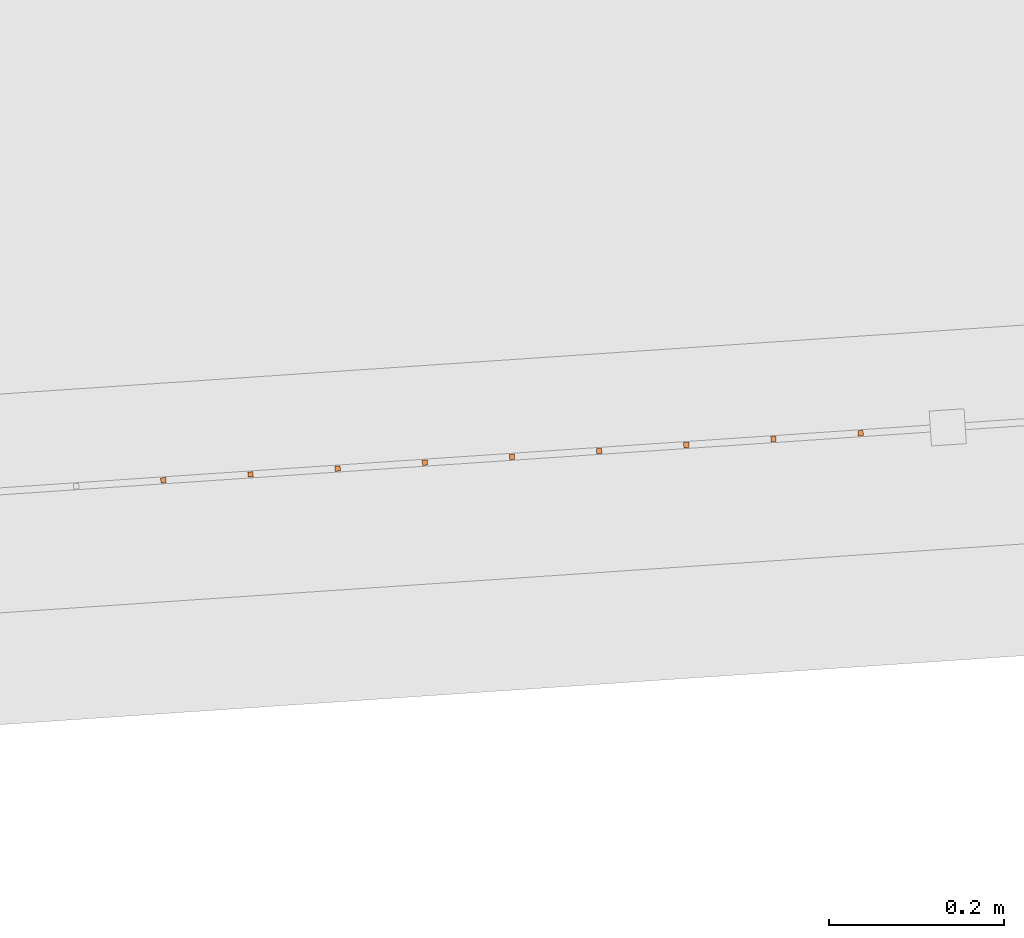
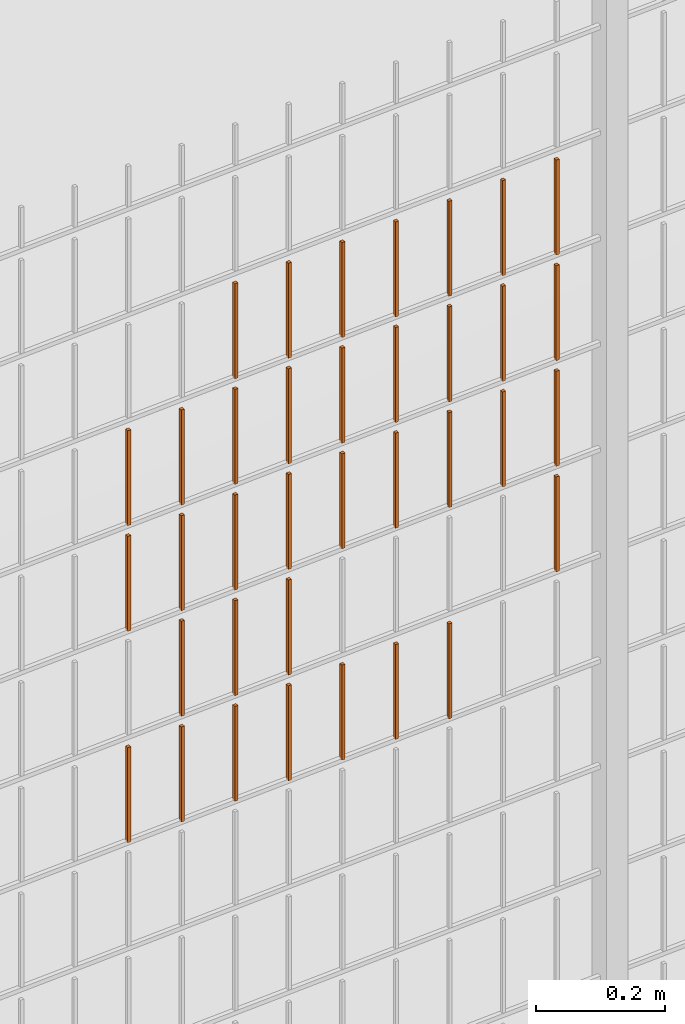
# One storey, part 194 of 1809: 36 proxies, 1 element without a shape of its own.
"""IFC2X3 building model written with IfcOpenShell, lengths in millimetres."""

from ifc_helpers import new_model, entity, si_unit, converted_unit, derived_unit, money_unit, direction, frame, origin_with_axes, place, context, subcontext, project, spatial, faceted_brep, source, transform, mapped, material, type_object, element, aggregate, save


model = new_model("IFC2X3")

# Units and contexts
model_context = context("Model", 3, precision=0.01, world=origin_with_axes(), true_north=direction((0.0, 1.0)))
body_context = subcontext(model_context, "Body", "Model", "MODEL_VIEW")
ifc_project = project(units=[si_unit("LENGTHUNIT", "METRE", prefix="MILLI"), si_unit("AREAUNIT", "SQUARE_METRE"), si_unit("VOLUMEUNIT", "CUBIC_METRE"), converted_unit("PLANEANGLEUNIT", "DEGREE", entity("IfcPlaneAngleMeasure", 0.0174532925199), si_unit("PLANEANGLEUNIT", "RADIAN"), dimensions=[0, 0, 0, 0, 0, 0, 0]), si_unit("SOLIDANGLEUNIT", "STERADIAN"), money_unit("EUR"), converted_unit("TIMEUNIT", "Year", entity("IfcTimeMeasure", 31556926.0), si_unit("TIMEUNIT", "SECOND"), dimensions=[0, 0, 1, 0, 0, 0, 0]), si_unit("MASSUNIT", "GRAM", prefix="KILO"), si_unit("THERMODYNAMICTEMPERATUREUNIT", "DEGREE_CELSIUS"), si_unit("LUMINOUSINTENSITYUNIT", "LUMEN"), si_unit("ENERGYUNIT", "JOULE", prefix="MEGA"), derived_unit("THERMALCONDUCTANCEUNIT", [(si_unit("POWERUNIT", "WATT"), 1), (si_unit("LENGTHUNIT", "METRE"), -1), (si_unit("THERMODYNAMICTEMPERATUREUNIT", "KELVIN"), -1)]), derived_unit("SPECIFICHEATCAPACITYUNIT", [(si_unit("ENERGYUNIT", "JOULE"), 1), (si_unit("MASSUNIT", "GRAM", prefix="KILO"), -1), (si_unit("THERMODYNAMICTEMPERATUREUNIT", "KELVIN"), -1)]), derived_unit("MASSDENSITYUNIT", [(si_unit("MASSUNIT", "GRAM", prefix="KILO"), 1), (si_unit("VOLUMEUNIT", "CUBIC_METRE"), -1)])], contexts=[model_context])

# Site, building, storey
site_placement = place(None, origin_with_axes())
site = spatial("IfcSite", under=ifc_project, at=site_placement, Name="Politse- ja Piirivalveameti ning Päästeameti ühishoone", CompositionType="ELEMENT")
building_placement = place(site_placement, origin_with_axes())
building = spatial("IfcBuilding", under=site, at=building_placement, Name="Politse- ja Piirivalveameti ning Päästeameti ühishoone", CompositionType="ELEMENT")
storey_placement = place(building_placement, origin_with_axes())
storey = spatial("IfcBuildingStorey", under=building, at=storey_placement, Name="Esimene korrus", CompositionType="ELEMENT", Elevation=0.0)

# Proxies
building_element_proxy_type_1 = type_object("IfcBuildingElementProxyType", Name="Railing Type", PredefinedType="NOTDEFINED")
proxy_1_placement = place(storey_placement, frame((89252.001212, -29183.4766571, 203.661247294), z_axis=(0.0, 0.0, 1.0), x_axis=(1.0, 0.0, 0.0)))
proxy_1 = element("IfcBuildingElementProxy", 1, at=proxy_1_placement, inside=storey, type_object=building_element_proxy_type_1, Name="PIIRDEAED")
ifc_material = material(Name="ET-03_Raud")
building_element_proxy_type_2 = type_object("IfcBuildingElementProxyType", Name="IfcBuildingElementProxy", PredefinedType="NOTDEFINED")
shared_shape_1 = source(origin_with_axes(), body_context, "Body", "Brep", [
    faceted_brep([(3.0, 3.0, -0.000752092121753), (-3.0, 3.0, -0.000752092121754), (-3.0, 3.0, 179.99926046), (3.0, 3.0, 179.99926046), (3.0, -3.0, 0.000752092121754), (-3.0, -3.0, 0.000752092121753), (-3.0, -3.0, 180.000764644), (3.0, -3.0, 180.000764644)], [[[0, 1, 2, 3]], [[0, 4, 5, 1]], [[1, 5, 6, 2]], [[3, 2, 6, 7]], [[4, 0, 3, 7]], [[5, 4, 7, 6]]]),
])
proxy_2_placement = place(proxy_1_placement, frame((-67373.1680859, -21848.5780086, 1210.30562217), z_axis=(0.0, 0.0, 1.0), x_axis=(1.0, 0.0, 0.0)))
proxy_2 = element("IfcBuildingElementProxy", 2, at=proxy_2_placement, type_object=building_element_proxy_type_2, material=ifc_material, Name="BALUSTER - 001", context=body_context, shape_type="MappedRepresentation", body=[
    mapped(shared_shape_1, transform((0.0, 0.0, 0.0), x_axis=(-0.0673926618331, 0.997726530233, 0.0), y_axis=(-0.997726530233, -0.0673926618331, 0.0), z_axis=(0.0, 0.0, 1.0))),
])
shared_shape_2 = source(origin_with_axes(), body_context, "Body", "Brep", [
    faceted_brep([(3.0, 3.0, -0.000752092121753), (-3.0, 3.0, -0.000752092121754), (-3.0, 3.0, 179.99926046), (3.0, 3.0, 179.99926046), (3.0, -3.0, 0.000752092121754), (-3.0, -3.0, 0.000752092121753), (-3.0, -3.0, 180.000764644), (3.0, -3.0, 180.000764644)], [[[0, 1, 2, 3]], [[0, 4, 5, 1]], [[1, 5, 6, 2]], [[3, 2, 6, 7]], [[4, 0, 3, 7]], [[5, 4, 7, 6]]]),
])
proxy_3_placement = place(proxy_1_placement, frame((-67373.1680859, -21848.5780086, 1410.30562217), z_axis=(0.0, 0.0, 1.0), x_axis=(1.0, 0.0, 0.0)))
proxy_3 = element("IfcBuildingElementProxy", 3, at=proxy_3_placement, type_object=building_element_proxy_type_2, material=ifc_material, Name="BALUSTER - 001", context=body_context, shape_type="MappedRepresentation", body=[
    mapped(shared_shape_2, transform((0.0, 0.0, 0.0), x_axis=(-0.0673926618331, 0.997726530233, 0.0), y_axis=(-0.997726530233, -0.0673926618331, 0.0), z_axis=(0.0, 0.0, 1.0))),
])
proxy_4_placement = place(proxy_1_placement, frame((-67373.1680859, -21848.5780086, 1610.30562217), z_axis=(0.0, 0.0, 1.0), x_axis=(1.0, 0.0, 0.0)))
proxy_4 = element("IfcBuildingElementProxy", 4, at=proxy_4_placement, type_object=building_element_proxy_type_2, material=ifc_material, Name="BALUSTER - 001", context=body_context, shape_type="MappedRepresentation", body=[
    mapped(shared_shape_2, transform((0.0, 0.0, 0.0), x_axis=(-0.0673926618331, 0.997726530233, 0.0), y_axis=(-0.997726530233, -0.0673926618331, 0.0), z_axis=(0.0, 0.0, 1.0))),
])
shared_shape_3 = source(origin_with_axes(), body_context, "Body", "Brep", [
    faceted_brep([(3.0, 3.0, -0.000752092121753), (-3.0, 3.0, -0.000752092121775), (-3.0, 3.0, 179.99926046), (3.0, 3.0, 179.99926046), (3.0, -3.0, 0.000752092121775), (-3.0, -3.0, 0.000752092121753), (-3.0, -3.0, 180.000764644), (3.0, -3.0, 180.000764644)], [[[0, 1, 2, 3]], [[0, 4, 5, 1]], [[1, 5, 6, 2]], [[3, 2, 6, 7]], [[4, 0, 3, 7]], [[5, 4, 7, 6]]]),
])
proxy_5_placement = place(proxy_1_placement, frame((-67472.9407389, -21855.3172748, 810.280552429), z_axis=(0.0, 0.0, 1.0), x_axis=(1.0, 0.0, 0.0)))
proxy_5 = element("IfcBuildingElementProxy", 5, at=proxy_5_placement, type_object=building_element_proxy_type_2, material=ifc_material, Name="BALUSTER - 001", context=body_context, shape_type="MappedRepresentation", body=[
    mapped(shared_shape_3, transform((0.0, 0.0, 0.0), x_axis=(-0.0673926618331, 0.997726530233, 0.0), y_axis=(-0.997726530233, -0.0673926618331, 0.0), z_axis=(0.0, 0.0, 1.0))),
])
shared_shape_4 = source(origin_with_axes(), body_context, "Body", "Brep", [
    faceted_brep([(3.0, 3.0, -0.000752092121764), (-3.0, 3.0, -0.000752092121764), (-3.0, 3.0, 179.99926046), (3.0, 3.0, 179.99926046), (3.0, -3.0, 0.000752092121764), (-3.0, -3.0, 0.000752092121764), (-3.0, -3.0, 180.000764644), (3.0, -3.0, 180.000764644)], [[[0, 1, 2, 3]], [[0, 4, 5, 1]], [[1, 5, 6, 2]], [[3, 2, 6, 7]], [[4, 0, 3, 7]], [[5, 4, 7, 6]]]),
])
proxy_6_placement = place(proxy_1_placement, frame((-67971.8040041, -21889.0136057, 810.155203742), z_axis=(0.0, 0.0, 1.0), x_axis=(1.0, 0.0, 0.0)))
proxy_6 = element("IfcBuildingElementProxy", 6, at=proxy_6_placement, type_object=building_element_proxy_type_2, material=ifc_material, Name="BALUSTER - 001", context=body_context, shape_type="MappedRepresentation", body=[
    mapped(shared_shape_4, transform((0.0, 0.0, 0.0), x_axis=(-0.0673926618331, 0.997726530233, 0.0), y_axis=(-0.997726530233, -0.0673926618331, 0.0), z_axis=(0.0, 0.0, 1.0))),
])
proxy_7_placement = place(proxy_1_placement, frame((-67971.8040041, -21889.0136057, 1210.15520374), z_axis=(0.0, 0.0, 1.0), x_axis=(1.0, 0.0, 0.0)))
proxy_7 = element("IfcBuildingElementProxy", 7, at=proxy_7_placement, type_object=building_element_proxy_type_2, material=ifc_material, Name="BALUSTER - 001", context=body_context, shape_type="MappedRepresentation", body=[
    mapped(shared_shape_4, transform((0.0, 0.0, 0.0), x_axis=(-0.0673926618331, 0.997726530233, 0.0), y_axis=(-0.997726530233, -0.0673926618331, 0.0), z_axis=(0.0, 0.0, 1.0))),
])
shared_shape_5 = source(origin_with_axes(), body_context, "Body", "Brep", [
    faceted_brep([(3.0, 3.0, -0.000752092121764), (-3.0, 3.0, -0.000752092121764), (-3.0, 3.0, 179.99926046), (3.0, 3.0, 179.99926046), (3.0, -3.0, 0.000752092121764), (-3.0, -3.0, 0.000752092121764), (-3.0, -3.0, 180.000764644), (3.0, -3.0, 180.000764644)], [[[0, 1, 2, 3]], [[0, 4, 5, 1]], [[1, 5, 6, 2]], [[3, 2, 6, 7]], [[4, 0, 3, 7]], [[5, 4, 7, 6]]]),
])
proxy_8_placement = place(proxy_1_placement, frame((-67971.8040041, -21889.0136057, 1410.15520374), z_axis=(0.0, 0.0, 1.0), x_axis=(1.0, 0.0, 0.0)))
proxy_8 = element("IfcBuildingElementProxy", 8, at=proxy_8_placement, type_object=building_element_proxy_type_2, material=ifc_material, Name="BALUSTER - 001", context=body_context, shape_type="MappedRepresentation", body=[
    mapped(shared_shape_5, transform((0.0, 0.0, 0.0), x_axis=(-0.0673926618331, 0.997726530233, 0.0), y_axis=(-0.997726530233, -0.0673926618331, 0.0), z_axis=(0.0, 0.0, 1.0))),
])
shared_shape_6 = source(origin_with_axes(), body_context, "Body", "Brep", [
    faceted_brep([(3.0, 3.0, -0.000752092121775), (-3.0, 3.0, -0.000752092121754), (-3.0, 3.0, 179.99926046), (3.0, 3.0, 179.99926046), (3.0, -3.0, 0.000752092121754), (-3.0, -3.0, 0.000752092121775), (-3.0, -3.0, 180.000764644), (3.0, -3.0, 180.000764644)], [[[0, 1, 2, 3]], [[0, 4, 5, 1]], [[1, 5, 6, 2]], [[3, 2, 6, 7]], [[4, 0, 3, 7]], [[5, 4, 7, 6]]]),
])
proxy_9_placement = place(proxy_1_placement, frame((-67572.713392, -21862.056541, 1210.25548269), z_axis=(0.0, 0.0, 1.0), x_axis=(1.0, 0.0, 0.0)))
proxy_9 = element("IfcBuildingElementProxy", 9, at=proxy_9_placement, type_object=building_element_proxy_type_2, material=ifc_material, Name="BALUSTER - 001", context=body_context, shape_type="MappedRepresentation", body=[
    mapped(shared_shape_6, transform((0.0, 0.0, 0.0), x_axis=(-0.0673926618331, 0.997726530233, 0.0), y_axis=(-0.997726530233, -0.0673926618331, 0.0), z_axis=(0.0, 0.0, 1.0))),
])
shared_shape_7 = source(origin_with_axes(), body_context, "Body", "Brep", [
    faceted_brep([(3.0, 3.0, -0.000752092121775), (-3.0, 3.0, -0.000752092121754), (-3.0, 3.0, 179.99926046), (3.0, 3.0, 179.99926046), (3.0, -3.0, 0.000752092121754), (-3.0, -3.0, 0.000752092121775), (-3.0, -3.0, 180.000764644), (3.0, -3.0, 180.000764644)], [[[0, 1, 2, 3]], [[0, 4, 5, 1]], [[1, 5, 6, 2]], [[3, 2, 6, 7]], [[4, 0, 3, 7]], [[5, 4, 7, 6]]]),
])
proxy_10_placement = place(proxy_1_placement, frame((-67572.713392, -21862.056541, 1410.25548269), z_axis=(0.0, 0.0, 1.0), x_axis=(1.0, 0.0, 0.0)))
proxy_10 = element("IfcBuildingElementProxy", 10, at=proxy_10_placement, type_object=building_element_proxy_type_2, material=ifc_material, Name="BALUSTER - 001", context=body_context, shape_type="MappedRepresentation", body=[
    mapped(shared_shape_7, transform((0.0, 0.0, 0.0), x_axis=(-0.0673926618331, 0.997726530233, 0.0), y_axis=(-0.997726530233, -0.0673926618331, 0.0), z_axis=(0.0, 0.0, 1.0))),
])
proxy_11_placement = place(proxy_1_placement, frame((-67572.713392, -21862.056541, 1610.25548269), z_axis=(0.0, 0.0, 1.0), x_axis=(1.0, 0.0, 0.0)))
proxy_11 = element("IfcBuildingElementProxy", 11, at=proxy_11_placement, type_object=building_element_proxy_type_2, material=ifc_material, Name="BALUSTER - 001", context=body_context, shape_type="MappedRepresentation", body=[
    mapped(shared_shape_7, transform((0.0, 0.0, 0.0), x_axis=(-0.0673926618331, 0.997726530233, 0.0), y_axis=(-0.997726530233, -0.0673926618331, 0.0), z_axis=(0.0, 0.0, 1.0))),
])
shared_shape_8 = source(origin_with_axes(), body_context, "Body", "Brep", [
    faceted_brep([(3.0, 3.0, -0.000752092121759), (-3.0, 3.0, -0.000752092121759), (-3.0, 3.0, 179.99926046), (3.0, 3.0, 179.99926046), (3.0, -3.0, 0.000752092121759), (-3.0, -3.0, 0.000752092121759), (-3.0, -3.0, 180.000764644), (3.0, -3.0, 180.000764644)], [[[0, 1, 2, 3]], [[0, 4, 5, 1]], [[1, 5, 6, 2]], [[3, 2, 6, 7]], [[4, 0, 3, 7]], [[5, 4, 7, 6]]]),
])
proxy_12_placement = place(proxy_1_placement, frame((-67273.3954329, -21841.8387425, 1210.3306919), z_axis=(0.0, 0.0, 1.0), x_axis=(1.0, 0.0, 0.0)))
proxy_12 = element("IfcBuildingElementProxy", 12, at=proxy_12_placement, type_object=building_element_proxy_type_2, material=ifc_material, Name="BALUSTER - 001", context=body_context, shape_type="MappedRepresentation", body=[
    mapped(shared_shape_8, transform((0.0, 0.0, 0.0), x_axis=(-0.0673926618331, 0.997726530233, 0.0), y_axis=(-0.997726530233, -0.0673926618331, 0.0), z_axis=(0.0, 0.0, 1.0))),
])
shared_shape_9 = source(origin_with_axes(), body_context, "Body", "Brep", [
    faceted_brep([(3.0, 3.0, -0.000752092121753), (-3.0, 3.0, -0.000752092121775), (-3.0, 3.0, 179.99926046), (3.0, 3.0, 179.99926046), (3.0, -3.0, 0.000752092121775), (-3.0, -3.0, 0.000752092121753), (-3.0, -3.0, 180.000764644), (3.0, -3.0, 180.000764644)], [[[0, 1, 2, 3]], [[0, 4, 5, 1]], [[1, 5, 6, 2]], [[3, 2, 6, 7]], [[4, 0, 3, 7]], [[5, 4, 7, 6]]]),
])
proxy_13_placement = place(proxy_1_placement, frame((-67672.486045, -21868.7958072, 810.230412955), z_axis=(0.0, 0.0, 1.0), x_axis=(1.0, 0.0, 0.0)))
proxy_13 = element("IfcBuildingElementProxy", 13, at=proxy_13_placement, type_object=building_element_proxy_type_2, material=ifc_material, Name="BALUSTER - 001", context=body_context, shape_type="MappedRepresentation", body=[
    mapped(shared_shape_9, transform((0.0, 0.0, 0.0), x_axis=(-0.0673926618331, 0.997726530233, 0.0), y_axis=(-0.997726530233, -0.0673926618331, 0.0), z_axis=(0.0, 0.0, 1.0))),
])
proxy_14_placement = place(proxy_1_placement, frame((-67672.486045, -21868.7958072, 1210.23041295), z_axis=(0.0, 0.0, 1.0), x_axis=(1.0, 0.0, 0.0)))
proxy_14 = element("IfcBuildingElementProxy", 14, at=proxy_14_placement, type_object=building_element_proxy_type_2, material=ifc_material, Name="BALUSTER - 001", context=body_context, shape_type="MappedRepresentation", body=[
    mapped(shared_shape_9, transform((0.0, 0.0, 0.0), x_axis=(-0.0673926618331, 0.997726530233, 0.0), y_axis=(-0.997726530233, -0.0673926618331, 0.0), z_axis=(0.0, 0.0, 1.0))),
])
shared_shape_10 = source(origin_with_axes(), body_context, "Body", "Brep", [
    faceted_brep([(3.0, 3.0, -0.000752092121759), (-3.0, 3.0, -0.000752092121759), (-3.0, 3.0, 179.99926046), (3.0, 3.0, 179.99926046), (3.0, -3.0, 0.000752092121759), (-3.0, -3.0, 0.000752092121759), (-3.0, -3.0, 180.000764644), (3.0, -3.0, 180.000764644)], [[[0, 1, 2, 3]], [[0, 4, 5, 1]], [[1, 5, 6, 2]], [[3, 2, 6, 7]], [[4, 0, 3, 7]], [[5, 4, 7, 6]]]),
])
proxy_15_placement = place(proxy_1_placement, frame((-67772.258698, -21875.5350734, 810.205343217), z_axis=(0.0, 0.0, 1.0), x_axis=(1.0, 0.0, 0.0)))
proxy_15 = element("IfcBuildingElementProxy", 15, at=proxy_15_placement, type_object=building_element_proxy_type_2, material=ifc_material, Name="BALUSTER - 001", context=body_context, shape_type="MappedRepresentation", body=[
    mapped(shared_shape_10, transform((0.0, 0.0, 0.0), x_axis=(-0.0673926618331, 0.997726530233, 0.0), y_axis=(-0.997726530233, -0.0673926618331, 0.0), z_axis=(0.0, 0.0, 1.0))),
])
shared_shape_11 = source(origin_with_axes(), body_context, "Body", "Brep", [
    faceted_brep([(3.0, 3.0, -0.000752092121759), (-3.0, 3.0, -0.000752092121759), (-3.0, 3.0, 179.99926046), (3.0, 3.0, 179.99926046), (3.0, -3.0, 0.000752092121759), (-3.0, -3.0, 0.000752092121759), (-3.0, -3.0, 180.000764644), (3.0, -3.0, 180.000764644)], [[[0, 1, 2, 3]], [[0, 4, 5, 1]], [[1, 5, 6, 2]], [[3, 2, 6, 7]], [[4, 0, 3, 7]], [[5, 4, 7, 6]]]),
])
proxy_16_placement = place(proxy_1_placement, frame((-67772.258698, -21875.5350734, 1210.20534322), z_axis=(0.0, 0.0, 1.0), x_axis=(1.0, 0.0, 0.0)))
proxy_16 = element("IfcBuildingElementProxy", 16, at=proxy_16_placement, type_object=building_element_proxy_type_2, material=ifc_material, Name="BALUSTER - 001", context=body_context, shape_type="MappedRepresentation", body=[
    mapped(shared_shape_11, transform((0.0, 0.0, 0.0), x_axis=(-0.0673926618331, 0.997726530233, 0.0), y_axis=(-0.997726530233, -0.0673926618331, 0.0), z_axis=(0.0, 0.0, 1.0))),
])
shared_shape_12 = source(origin_with_axes(), body_context, "Body", "Brep", [
    faceted_brep([(3.0, 3.0, -0.000752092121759), (-3.0, 3.0, -0.000752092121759), (-3.0, 3.0, 179.99926046), (3.0, 3.0, 179.99926046), (3.0, -3.0, 0.000752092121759), (-3.0, -3.0, 0.000752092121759), (-3.0, -3.0, 180.000764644), (3.0, -3.0, 180.000764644)], [[[0, 1, 2, 3]], [[0, 4, 5, 1]], [[1, 5, 6, 2]], [[3, 2, 6, 7]], [[4, 0, 3, 7]], [[5, 4, 7, 6]]]),
])
proxy_17_placement = place(proxy_1_placement, frame((-67772.258698, -21875.5350734, 1410.20534322), z_axis=(0.0, 0.0, 1.0), x_axis=(1.0, 0.0, 0.0)))
proxy_17 = element("IfcBuildingElementProxy", 17, at=proxy_17_placement, type_object=building_element_proxy_type_2, material=ifc_material, Name="BALUSTER - 001", context=body_context, shape_type="MappedRepresentation", body=[
    mapped(shared_shape_12, transform((0.0, 0.0, 0.0), x_axis=(-0.0673926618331, 0.997726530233, 0.0), y_axis=(-0.997726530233, -0.0673926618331, 0.0), z_axis=(0.0, 0.0, 1.0))),
])
proxy_18_placement = place(proxy_1_placement, frame((-67772.258698, -21875.5350734, 1610.20534322), z_axis=(0.0, 0.0, 1.0), x_axis=(1.0, 0.0, 0.0)))
proxy_18 = element("IfcBuildingElementProxy", 18, at=proxy_18_placement, type_object=building_element_proxy_type_2, material=ifc_material, Name="BALUSTER - 001", context=body_context, shape_type="MappedRepresentation", body=[
    mapped(shared_shape_12, transform((0.0, 0.0, 0.0), x_axis=(-0.0673926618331, 0.997726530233, 0.0), y_axis=(-0.997726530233, -0.0673926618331, 0.0), z_axis=(0.0, 0.0, 1.0))),
])
shared_shape_13 = source(origin_with_axes(), body_context, "Body", "Brep", [
    faceted_brep([(3.0, 3.0, -0.000752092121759), (-3.0, 3.0, -0.000752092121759), (-3.0, 3.0, 179.99926046), (3.0, 3.0, 179.99926046), (3.0, -3.0, 0.000752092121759), (-3.0, -3.0, 0.000752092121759), (-3.0, -3.0, 180.000764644), (3.0, -3.0, 180.000764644)], [[[0, 1, 2, 3]], [[0, 4, 5, 1]], [[1, 5, 6, 2]], [[3, 2, 6, 7]], [[4, 0, 3, 7]], [[5, 4, 7, 6]]]),
])
proxy_19_placement = place(proxy_1_placement, frame((-67273.3954329, -21841.8387425, 1410.3306919), z_axis=(0.0, 0.0, 1.0), x_axis=(1.0, 0.0, 0.0)))
proxy_19 = element("IfcBuildingElementProxy", 19, at=proxy_19_placement, type_object=building_element_proxy_type_2, material=ifc_material, Name="BALUSTER - 001", context=body_context, shape_type="MappedRepresentation", body=[
    mapped(shared_shape_13, transform((0.0, 0.0, 0.0), x_axis=(-0.0673926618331, 0.997726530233, 0.0), y_axis=(-0.997726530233, -0.0673926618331, 0.0), z_axis=(0.0, 0.0, 1.0))),
])
proxy_20_placement = place(proxy_1_placement, frame((-67273.3954329, -21841.8387425, 1610.3306919), z_axis=(0.0, 0.0, 1.0), x_axis=(1.0, 0.0, 0.0)))
proxy_20 = element("IfcBuildingElementProxy", 20, at=proxy_20_placement, type_object=building_element_proxy_type_2, material=ifc_material, Name="BALUSTER - 001", context=body_context, shape_type="MappedRepresentation", body=[
    mapped(shared_shape_13, transform((0.0, 0.0, 0.0), x_axis=(-0.0673926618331, 0.997726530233, 0.0), y_axis=(-0.997726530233, -0.0673926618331, 0.0), z_axis=(0.0, 0.0, 1.0))),
])
shared_shape_14 = source(origin_with_axes(), body_context, "Body", "Brep", [
    faceted_brep([(3.0, 3.0, -0.000752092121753), (-3.0, 3.0, -0.000752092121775), (-3.0, 3.0, 179.99926046), (3.0, 3.0, 179.99926046), (3.0, -3.0, 0.000752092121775), (-3.0, -3.0, 0.000752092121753), (-3.0, -3.0, 180.000764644), (3.0, -3.0, 180.000764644)], [[[0, 1, 2, 3]], [[0, 4, 5, 1]], [[1, 5, 6, 2]], [[3, 2, 6, 7]], [[4, 0, 3, 7]], [[5, 4, 7, 6]]]),
])
proxy_21_placement = place(proxy_1_placement, frame((-67572.713392, -21862.056541, 810.255482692), z_axis=(0.0, 0.0, 1.0), x_axis=(1.0, 0.0, 0.0)))
proxy_21 = element("IfcBuildingElementProxy", 21, at=proxy_21_placement, type_object=building_element_proxy_type_2, material=ifc_material, Name="BALUSTER - 001", context=body_context, shape_type="MappedRepresentation", body=[
    mapped(shared_shape_14, transform((0.0, 0.0, 0.0), x_axis=(-0.0673926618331, 0.997726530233, 0.0), y_axis=(-0.997726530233, -0.0673926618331, 0.0), z_axis=(0.0, 0.0, 1.0))),
])
proxy_22_placement = place(proxy_1_placement, frame((-67472.9407389, -21855.3172748, 1210.28055243), z_axis=(0.0, 0.0, 1.0), x_axis=(1.0, 0.0, 0.0)))
proxy_22 = element("IfcBuildingElementProxy", 22, at=proxy_22_placement, type_object=building_element_proxy_type_2, material=ifc_material, Name="BALUSTER - 001", context=body_context, shape_type="MappedRepresentation", body=[
    mapped(shared_shape_14, transform((0.0, 0.0, 0.0), x_axis=(-0.0673926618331, 0.997726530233, 0.0), y_axis=(-0.997726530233, -0.0673926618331, 0.0), z_axis=(0.0, 0.0, 1.0))),
])
shared_shape_15 = source(origin_with_axes(), body_context, "Body", "Brep", [
    faceted_brep([(3.0, 3.0, -0.000752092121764), (-3.0, 3.0, -0.000752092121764), (-3.0, 3.0, 179.99926046), (3.0, 3.0, 179.99926046), (3.0, -3.0, 0.000752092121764), (-3.0, -3.0, 0.000752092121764), (-3.0, -3.0, 180.000764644), (3.0, -3.0, 180.000764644)], [[[0, 1, 2, 3]], [[0, 4, 5, 1]], [[1, 5, 6, 2]], [[3, 2, 6, 7]], [[4, 0, 3, 7]], [[5, 4, 7, 6]]]),
])
proxy_23_placement = place(proxy_1_placement, frame((-67872.031351, -21882.2743396, 810.18027348), z_axis=(0.0, 0.0, 1.0), x_axis=(1.0, 0.0, 0.0)))
proxy_23 = element("IfcBuildingElementProxy", 23, at=proxy_23_placement, type_object=building_element_proxy_type_2, material=ifc_material, Name="BALUSTER - 001", context=body_context, shape_type="MappedRepresentation", body=[
    mapped(shared_shape_15, transform((0.0, 0.0, 0.0), x_axis=(-0.0673926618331, 0.997726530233, 0.0), y_axis=(-0.997726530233, -0.0673926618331, 0.0), z_axis=(0.0, 0.0, 1.0))),
])
shared_shape_16 = source(origin_with_axes(), body_context, "Body", "Brep", [
    faceted_brep([(3.0, 3.0, -0.000752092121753), (-3.0, 3.0, -0.000752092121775), (-3.0, 3.0, 179.99926046), (3.0, 3.0, 179.99926046), (3.0, -3.0, 0.000752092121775), (-3.0, -3.0, 0.000752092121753), (-3.0, -3.0, 180.000764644), (3.0, -3.0, 180.000764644)], [[[0, 1, 2, 3]], [[0, 4, 5, 1]], [[1, 5, 6, 2]], [[3, 2, 6, 7]], [[4, 0, 3, 7]], [[5, 4, 7, 6]]]),
])
proxy_24_placement = place(proxy_1_placement, frame((-68071.5766571, -21895.7528719, 810.130134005), z_axis=(0.0, 0.0, 1.0), x_axis=(1.0, 0.0, 0.0)))
proxy_24 = element("IfcBuildingElementProxy", 24, at=proxy_24_placement, type_object=building_element_proxy_type_2, material=ifc_material, Name="BALUSTER - 001", context=body_context, shape_type="MappedRepresentation", body=[
    mapped(shared_shape_16, transform((0.0, 0.0, 0.0), x_axis=(-0.0673926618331, 0.997726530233, 0.0), y_axis=(-0.997726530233, -0.0673926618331, 0.0), z_axis=(0.0, 0.0, 1.0))),
])
proxy_25_placement = place(proxy_1_placement, frame((-68071.5766571, -21895.7528719, 1210.130134), z_axis=(0.0, 0.0, 1.0), x_axis=(1.0, 0.0, 0.0)))
proxy_25 = element("IfcBuildingElementProxy", 25, at=proxy_25_placement, type_object=building_element_proxy_type_2, material=ifc_material, Name="BALUSTER - 001", context=body_context, shape_type="MappedRepresentation", body=[
    mapped(shared_shape_16, transform((0.0, 0.0, 0.0), x_axis=(-0.0673926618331, 0.997726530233, 0.0), y_axis=(-0.997726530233, -0.0673926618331, 0.0), z_axis=(0.0, 0.0, 1.0))),
])
shared_shape_17 = source(origin_with_axes(), body_context, "Body", "Brep", [
    faceted_brep([(3.0, 3.0, -0.000752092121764), (-3.0, 3.0, -0.000752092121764), (-3.0, 3.0, 179.99926046), (3.0, 3.0, 179.99926046), (3.0, -3.0, 0.000752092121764), (-3.0, -3.0, 0.000752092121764), (-3.0, -3.0, 180.000764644), (3.0, -3.0, 180.000764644)], [[[0, 1, 2, 3]], [[0, 4, 5, 1]], [[1, 5, 6, 2]], [[3, 2, 6, 7]], [[4, 0, 3, 7]], [[5, 4, 7, 6]]]),
])
proxy_26_placement = place(proxy_1_placement, frame((-67273.3954329, -21841.8387425, 1010.3306919), z_axis=(0.0, 0.0, 1.0), x_axis=(1.0, 0.0, 0.0)))
proxy_26 = element("IfcBuildingElementProxy", 26, at=proxy_26_placement, type_object=building_element_proxy_type_2, material=ifc_material, Name="BALUSTER - 001", context=body_context, shape_type="MappedRepresentation", body=[
    mapped(shared_shape_17, transform((0.0, 0.0, 0.0), x_axis=(-0.0673926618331, 0.997726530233, 0.0), y_axis=(-0.997726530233, -0.0673926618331, 0.0), z_axis=(0.0, 0.0, 1.0))),
])
shared_shape_18 = source(origin_with_axes(), body_context, "Body", "Brep", [
    faceted_brep([(3.0, 3.0, -0.000752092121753), (-3.0, 3.0, -0.000752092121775), (-3.0, 3.0, 179.99926046), (3.0, 3.0, 179.99926046), (3.0, -3.0, 0.000752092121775), (-3.0, -3.0, 0.000752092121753), (-3.0, -3.0, 180.000764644), (3.0, -3.0, 180.000764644)], [[[0, 1, 2, 3]], [[0, 4, 5, 1]], [[1, 5, 6, 2]], [[3, 2, 6, 7]], [[4, 0, 3, 7]], [[5, 4, 7, 6]]]),
])
proxy_27_placement = place(proxy_1_placement, frame((-68071.5766571, -21895.7528719, 1410.130134), z_axis=(0.0, 0.0, 1.0), x_axis=(1.0, 0.0, 0.0)))
proxy_27 = element("IfcBuildingElementProxy", 27, at=proxy_27_placement, type_object=building_element_proxy_type_2, material=ifc_material, Name="BALUSTER - 001", context=body_context, shape_type="MappedRepresentation", body=[
    mapped(shared_shape_18, transform((0.0, 0.0, 0.0), x_axis=(-0.0673926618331, 0.997726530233, 0.0), y_axis=(-0.997726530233, -0.0673926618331, 0.0), z_axis=(0.0, 0.0, 1.0))),
])
shared_shape_19 = source(origin_with_axes(), body_context, "Body", "Brep", [
    faceted_brep([(3.0, 3.0, -0.000752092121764), (-3.0, 3.0, -0.000752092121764), (-3.0, 3.0, 179.99926046), (3.0, 3.0, 179.99926046), (3.0, -3.0, 0.000752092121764), (-3.0, -3.0, 0.000752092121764), (-3.0, -3.0, 180.000764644), (3.0, -3.0, 180.000764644)], [[[0, 1, 2, 3]], [[0, 4, 5, 1]], [[1, 5, 6, 2]], [[3, 2, 6, 7]], [[4, 0, 3, 7]], [[5, 4, 7, 6]]]),
])
proxy_28_placement = place(proxy_1_placement, frame((-67772.258698, -21875.5350734, 1010.20534322), z_axis=(0.0, 0.0, 1.0), x_axis=(1.0, 0.0, 0.0)))
proxy_28 = element("IfcBuildingElementProxy", 28, at=proxy_28_placement, type_object=building_element_proxy_type_2, material=ifc_material, Name="BALUSTER - 001", context=body_context, shape_type="MappedRepresentation", body=[
    mapped(shared_shape_19, transform((0.0, 0.0, 0.0), x_axis=(-0.0673926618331, 0.997726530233, 0.0), y_axis=(-0.997726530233, -0.0673926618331, 0.0), z_axis=(0.0, 0.0, 1.0))),
])
shared_shape_20 = source(origin_with_axes(), body_context, "Body", "Brep", [
    faceted_brep([(3.0, 3.0, -0.000752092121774), (-3.0, 3.0, -0.000752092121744), (-3.00000000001, 3.0, 179.99926046), (2.99999999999, 3.0, 179.99926046), (3.0, -3.0, 0.000752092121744), (-3.0, -3.0, 0.000752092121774), (-3.00000000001, -3.0, 180.000764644), (2.99999999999, -3.0, 180.000764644)], [[[0, 1, 2, 3]], [[0, 4, 5, 1]], [[1, 5, 6, 2]], [[3, 2, 6, 7]], [[4, 0, 3, 7]], [[5, 4, 7, 6]]]),
])
proxy_29_placement = place(proxy_1_placement, frame((-67872.031351, -21882.2743396, 1010.18027348), z_axis=(0.0, 0.0, 1.0), x_axis=(1.0, 0.0, 0.0)))
proxy_29 = element("IfcBuildingElementProxy", 29, at=proxy_29_placement, type_object=building_element_proxy_type_2, material=ifc_material, Name="BALUSTER - 001", context=body_context, shape_type="MappedRepresentation", body=[
    mapped(shared_shape_20, transform((0.0, 0.0, 0.0), x_axis=(-0.0673926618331, 0.997726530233, 0.0), y_axis=(-0.997726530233, -0.0673926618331, 0.0), z_axis=(0.0, 0.0, 1.0))),
])
shared_shape_21 = source(origin_with_axes(), body_context, "Body", "Brep", [
    faceted_brep([(3.0, 3.0, -0.000752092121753), (-3.0, 3.0, -0.000752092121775), (-3.0, 3.0, 179.99926046), (3.0, 3.0, 179.99926046), (3.0, -3.0, 0.000752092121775), (-3.0, -3.0, 0.000752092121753), (-3.0, -3.0, 180.000764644), (3.0, -3.0, 180.000764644)], [[[0, 1, 2, 3]], [[0, 4, 5, 1]], [[1, 5, 6, 2]], [[3, 2, 6, 7]], [[4, 0, 3, 7]], [[5, 4, 7, 6]]]),
])
proxy_30_placement = place(proxy_1_placement, frame((-67472.9407389, -21855.3172748, 1410.28055243), z_axis=(0.0, 0.0, 1.0), x_axis=(1.0, 0.0, 0.0)))
proxy_30 = element("IfcBuildingElementProxy", 30, at=proxy_30_placement, type_object=building_element_proxy_type_2, material=ifc_material, Name="BALUSTER - 001", context=body_context, shape_type="MappedRepresentation", body=[
    mapped(shared_shape_21, transform((0.0, 0.0, 0.0), x_axis=(-0.0673926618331, 0.997726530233, 0.0), y_axis=(-0.997726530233, -0.0673926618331, 0.0), z_axis=(0.0, 0.0, 1.0))),
])
proxy_31_placement = place(proxy_1_placement, frame((-67472.9407389, -21855.3172748, 1610.28055243), z_axis=(0.0, 0.0, 1.0), x_axis=(1.0, 0.0, 0.0)))
proxy_31 = element("IfcBuildingElementProxy", 31, at=proxy_31_placement, type_object=building_element_proxy_type_2, material=ifc_material, Name="BALUSTER - 001", context=body_context, shape_type="MappedRepresentation", body=[
    mapped(shared_shape_21, transform((0.0, 0.0, 0.0), x_axis=(-0.0673926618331, 0.997726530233, 0.0), y_axis=(-0.997726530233, -0.0673926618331, 0.0), z_axis=(0.0, 0.0, 1.0))),
])
shared_shape_22 = source(origin_with_axes(), body_context, "Body", "Brep", [
    faceted_brep([(3.0, 3.0, -0.000752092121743), (-3.0, 3.0, -0.000752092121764), (-3.0, 3.0, 179.99926046), (3.0, 3.0, 179.99926046), (3.0, -3.0, 0.000752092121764), (-3.0, -3.0, 0.000752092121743), (-3.0, -3.0, 180.000764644), (3.0, -3.0, 180.000764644)], [[[0, 1, 2, 3]], [[0, 4, 5, 1]], [[1, 5, 6, 2]], [[3, 2, 6, 7]], [[4, 0, 3, 7]], [[5, 4, 7, 6]]]),
])
proxy_32_placement = place(proxy_1_placement, frame((-67872.031351, -21882.2743396, 1210.18027348), z_axis=(0.0, 0.0, 1.0), x_axis=(1.0, 0.0, 0.0)))
proxy_32 = element("IfcBuildingElementProxy", 32, at=proxy_32_placement, type_object=building_element_proxy_type_2, material=ifc_material, Name="BALUSTER - 001", context=body_context, shape_type="MappedRepresentation", body=[
    mapped(shared_shape_22, transform((0.0, 0.0, 0.0), x_axis=(-0.0673926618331, 0.997726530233, 0.0), y_axis=(-0.997726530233, -0.0673926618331, 0.0), z_axis=(0.0, 0.0, 1.0))),
])
shared_shape_23 = source(origin_with_axes(), body_context, "Body", "Brep", [
    faceted_brep([(3.0, 3.0, -0.000752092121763), (-3.0, 3.0, -0.000752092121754), (-3.00000000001, 3.0, 179.99926046), (2.99999999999, 3.0, 179.99926046), (3.0, -3.0, 0.000752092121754), (-3.0, -3.0, 0.000752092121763), (-3.00000000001, -3.0, 180.000764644), (2.99999999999, -3.0, 180.000764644)], [[[0, 1, 2, 3]], [[0, 4, 5, 1]], [[1, 5, 6, 2]], [[3, 2, 6, 7]], [[4, 0, 3, 7]], [[5, 4, 7, 6]]]),
])
proxy_33_placement = place(proxy_1_placement, frame((-67971.8040041, -21889.0136057, 1010.15520374), z_axis=(0.0, 0.0, 1.0), x_axis=(1.0, 0.0, 0.0)))
proxy_33 = element("IfcBuildingElementProxy", 33, at=proxy_33_placement, type_object=building_element_proxy_type_2, material=ifc_material, Name="BALUSTER - 001", context=body_context, shape_type="MappedRepresentation", body=[
    mapped(shared_shape_23, transform((0.0, 0.0, 0.0), x_axis=(-0.0673926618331, 0.997726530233, 0.0), y_axis=(-0.997726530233, -0.0673926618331, 0.0), z_axis=(0.0, 0.0, 1.0))),
])
shared_shape_24 = source(origin_with_axes(), body_context, "Body", "Brep", [
    faceted_brep([(3.0, 3.0, -0.000752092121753), (-3.0, 3.0, -0.000752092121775), (-3.0, 3.0, 179.99926046), (3.0, 3.0, 179.99926046), (3.0, -3.0, 0.000752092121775), (-3.0, -3.0, 0.000752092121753), (-3.0, -3.0, 180.000764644), (3.0, -3.0, 180.000764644)], [[[0, 1, 2, 3]], [[0, 4, 5, 1]], [[1, 5, 6, 2]], [[3, 2, 6, 7]], [[4, 0, 3, 7]], [[5, 4, 7, 6]]]),
])
proxy_34_placement = place(proxy_1_placement, frame((-67672.486045, -21868.7958072, 1410.23041295), z_axis=(0.0, 0.0, 1.0), x_axis=(1.0, 0.0, 0.0)))
proxy_34 = element("IfcBuildingElementProxy", 34, at=proxy_34_placement, type_object=building_element_proxy_type_2, material=ifc_material, Name="BALUSTER - 001", context=body_context, shape_type="MappedRepresentation", body=[
    mapped(shared_shape_24, transform((0.0, 0.0, 0.0), x_axis=(-0.0673926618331, 0.997726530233, 0.0), y_axis=(-0.997726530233, -0.0673926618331, 0.0), z_axis=(0.0, 0.0, 1.0))),
])
proxy_35_placement = place(proxy_1_placement, frame((-67672.486045, -21868.7958072, 1610.23041295), z_axis=(0.0, 0.0, 1.0), x_axis=(1.0, 0.0, 0.0)))
proxy_35 = element("IfcBuildingElementProxy", 35, at=proxy_35_placement, type_object=building_element_proxy_type_2, material=ifc_material, Name="BALUSTER - 001", context=body_context, shape_type="MappedRepresentation", body=[
    mapped(shared_shape_24, transform((0.0, 0.0, 0.0), x_axis=(-0.0673926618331, 0.997726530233, 0.0), y_axis=(-0.997726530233, -0.0673926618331, 0.0), z_axis=(0.0, 0.0, 1.0))),
])
shared_shape_25 = source(origin_with_axes(), body_context, "Body", "Brep", [
    faceted_brep([(3.0, 3.0, -0.000752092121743), (-3.0, 3.0, -0.000752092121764), (-3.0, 3.0, 179.99926046), (3.0, 3.0, 179.99926046), (3.0, -3.0, 0.000752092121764), (-3.0, -3.0, 0.000752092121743), (-3.0, -3.0, 180.000764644), (3.0, -3.0, 180.000764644)], [[[0, 1, 2, 3]], [[0, 4, 5, 1]], [[1, 5, 6, 2]], [[3, 2, 6, 7]], [[4, 0, 3, 7]], [[5, 4, 7, 6]]]),
])
proxy_36_placement = place(proxy_1_placement, frame((-67872.031351, -21882.2743396, 1410.18027348), z_axis=(0.0, 0.0, 1.0), x_axis=(1.0, 0.0, 0.0)))
proxy_36 = element("IfcBuildingElementProxy", 36, at=proxy_36_placement, type_object=building_element_proxy_type_2, material=ifc_material, Name="BALUSTER - 001", context=body_context, shape_type="MappedRepresentation", body=[
    mapped(shared_shape_25, transform((0.0, 0.0, 0.0), x_axis=(-0.0673926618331, 0.997726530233, 0.0), y_axis=(-0.997726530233, -0.0673926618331, 0.0), z_axis=(0.0, 0.0, 1.0))),
])
proxy_37_placement = place(proxy_1_placement, frame((-67872.031351, -21882.2743396, 1610.18027348), z_axis=(0.0, 0.0, 1.0), x_axis=(1.0, 0.0, 0.0)))
proxy_37 = element("IfcBuildingElementProxy", 37, at=proxy_37_placement, type_object=building_element_proxy_type_2, material=ifc_material, Name="BALUSTER - 001", context=body_context, shape_type="MappedRepresentation", body=[
    mapped(shared_shape_25, transform((0.0, 0.0, 0.0), x_axis=(-0.0673926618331, 0.997726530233, 0.0), y_axis=(-0.997726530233, -0.0673926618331, 0.0), z_axis=(0.0, 0.0, 1.0))),
])
aggregate(proxy_1, [proxy_5, proxy_21, proxy_13, proxy_15, proxy_23, proxy_6, proxy_24, proxy_26, proxy_28, proxy_29, proxy_33, proxy_12, proxy_2, proxy_22, proxy_9, proxy_14, proxy_16, proxy_32, proxy_7, proxy_25, proxy_19, proxy_3, proxy_30, proxy_10, proxy_34, proxy_17, proxy_36, proxy_8, proxy_27, proxy_20, proxy_4, proxy_31, proxy_11, proxy_35, proxy_18, proxy_37])

save(model, "model.ifc")
